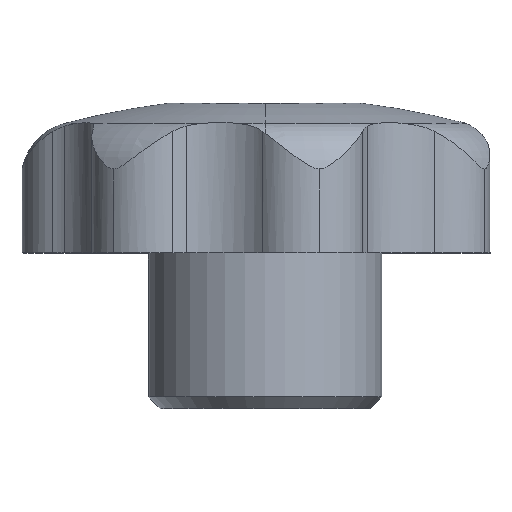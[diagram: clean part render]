
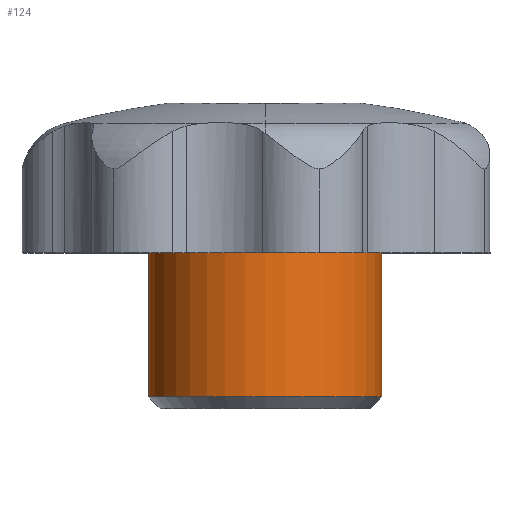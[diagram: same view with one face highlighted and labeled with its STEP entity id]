
A CAD part, top view. The second image highlights one B-rep face of the part: STEP entity #124.
In plain terms, the highlighted cylindrical face has radius 6 mm (diameter 12 mm), a partial arc.
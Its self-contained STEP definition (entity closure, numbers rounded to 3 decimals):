
#124=ADVANCED_FACE('',(#272),#273,.T.);
#272=FACE_OUTER_BOUND('',#469,.T.);
#273=CYLINDRICAL_SURFACE('',#470,6.0);
#469=EDGE_LOOP('',(#945,#946,#947,#948));
#470=AXIS2_PLACEMENT_3D('',#949,#950,#951);
#945=ORIENTED_EDGE('',*,*,#1538,.T.);
#946=ORIENTED_EDGE('',*,*,#1575,.F.);
#947=ORIENTED_EDGE('',*,*,#1540,.T.);
#948=ORIENTED_EDGE('',*,*,#1573,.T.);
#949=CARTESIAN_POINT('',(0.0,4.301,0.));
#950=DIRECTION('',(-0.0,1.0,0.0));
#951=DIRECTION('',(1.0,0.0,0.0));
#1538=EDGE_CURVE('',#1926,#1918,#1927,.T.);
#1540=EDGE_CURVE('',#1921,#1928,#1930,.T.);
#1573=EDGE_CURVE('',#1928,#1926,#1979,.T.);
#1575=EDGE_CURVE('',#1921,#1918,#1981,.T.);
#1918=VERTEX_POINT('',#2778);
#1921=VERTEX_POINT('',#2782);
#1926=VERTEX_POINT('',#2788);
#1927=LINE('',#2789,#2790);
#1928=VERTEX_POINT('',#2791);
#1930=LINE('',#2793,#2794);
#1979=CIRCLE('',#2857,6.0);
#1981=CIRCLE('',#2859,6.0);
#2778=CARTESIAN_POINT('',(6.0,8.001,0.));
#2782=CARTESIAN_POINT('',(-6.0,8.001,0.));
#2788=CARTESIAN_POINT('',(6.0,0.601,0.));
#2789=CARTESIAN_POINT('',(6.0,4.301,0.));
#2790=VECTOR('',#3490,1.0);
#2791=CARTESIAN_POINT('',(-6.0,0.601,0.));
#2793=CARTESIAN_POINT('',(-6.0,4.301,0.));
#2794=VECTOR('',#3494,1.0);
#2857=AXIS2_PLACEMENT_3D('',#3563,#3564,#3565);
#2859=AXIS2_PLACEMENT_3D('',#3569,#3570,#3571);
#3490=DIRECTION('',(0.0,1.0,0.0));
#3494=DIRECTION('',(-0.0,-1.0,-0.0));
#3563=CARTESIAN_POINT('',(0.0,0.601,0.));
#3564=DIRECTION('',(-0.0,1.0,0.0));
#3565=DIRECTION('',(1.0,0.0,0.0));
#3569=CARTESIAN_POINT('',(0.0,8.001,0.));
#3570=DIRECTION('',(-0.0,1.0,0.0));
#3571=DIRECTION('',(1.0,0.0,0.0));
